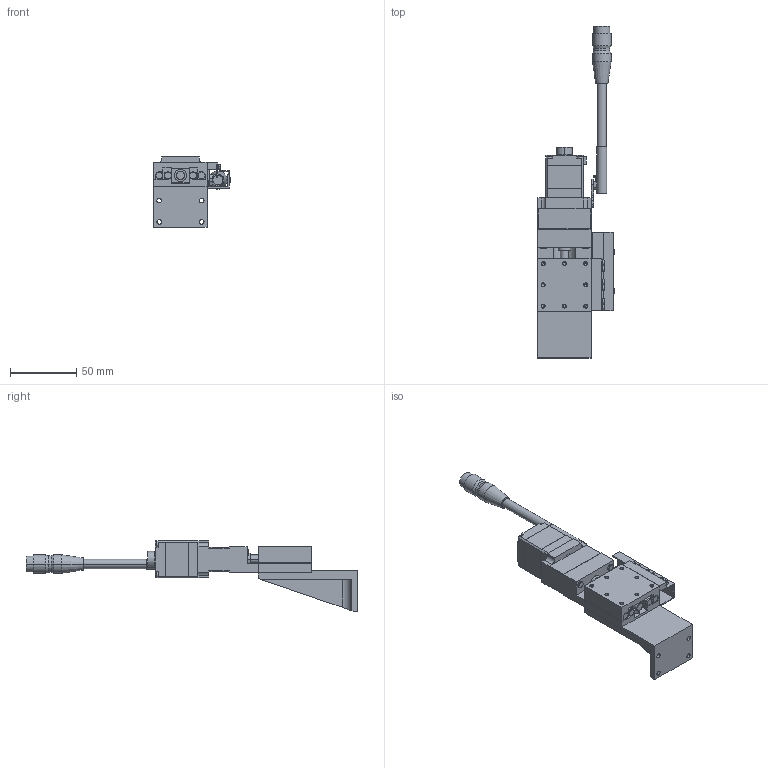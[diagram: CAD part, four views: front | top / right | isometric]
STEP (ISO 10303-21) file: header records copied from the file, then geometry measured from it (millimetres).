
FILE_DESCRIPTION(('STEP AP203'),'1');
FILE_NAME('C:/3D-Trans/3D_PZG413T-R□-T+241108.step','2024-11-08T06:15:24',(' '),(' '),'Spatial InterOp 3D',' ',' ');
FILE_SCHEMA(('CONFIG_CONTROL_DESIGN'));
Length unit declared in the file: millimetre
Products named in the file (7): 1; 2; 3; 4; 5; 6; 7
Bounding box: 57.4 x 250 x 53 mm (x, y, z)
Volume: 119023.1 mm3; surface area: 52125.2 mm2
Topology: 7 solids, 7 shells, 612 faces, 1554 edges, 984 vertices
Faces by surface type: plane 359, cylinder 199, cone 54
Entity records: 18615 total; most frequent: DIRECTION 3253, CARTESIAN_POINT 3143, ORIENTED_EDGE 3068, EDGE_CURVE 1534, AXIS2_PLACEMENT_3D 1102, LINE 1049, VECTOR 1049, VERTEX_POINT 984
